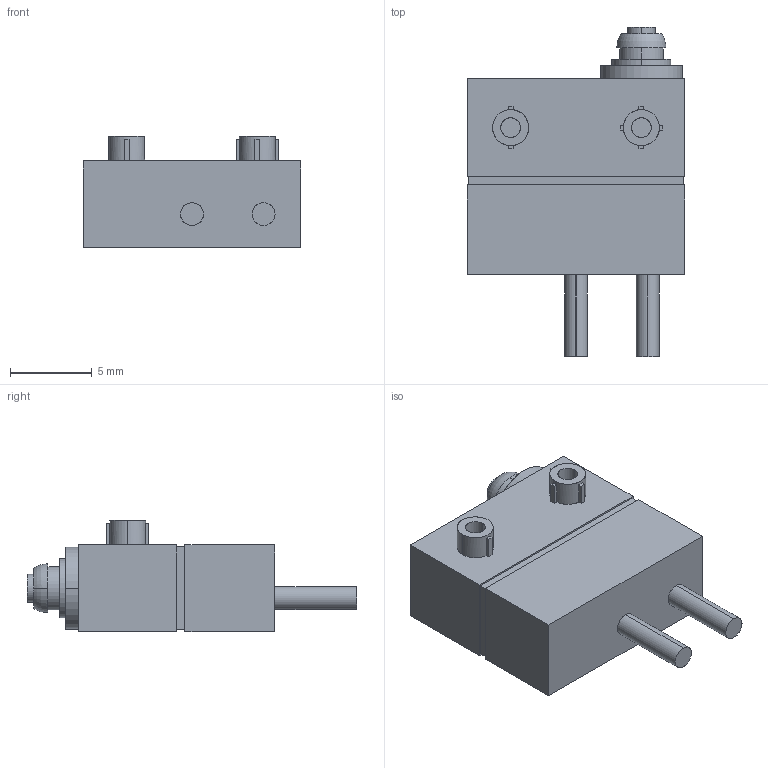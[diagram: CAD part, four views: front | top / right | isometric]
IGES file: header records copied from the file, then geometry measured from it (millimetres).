
Start section: OSMC1.0    IGES FILE using analytic representation for surfaces
Global section: file name: C:\OMRON\Data\D2AW_R5_ER003MP.igs; native system: SolidWorks 2001Plus by SolidWorks Corporation; preprocessor: Version 5.3; author: sakane; date: 240517.145330; units: millimetre
Bounding box: 13.3 x 20.14 x 6.8 mm (x, y, z)
Surface area: 827.6 mm2 (no closed solid volume)
Topology: 0 solids, 0 shells, 75 faces, 808 edges, 808 vertices
Faces by surface type: bspline 51, revolution 24
